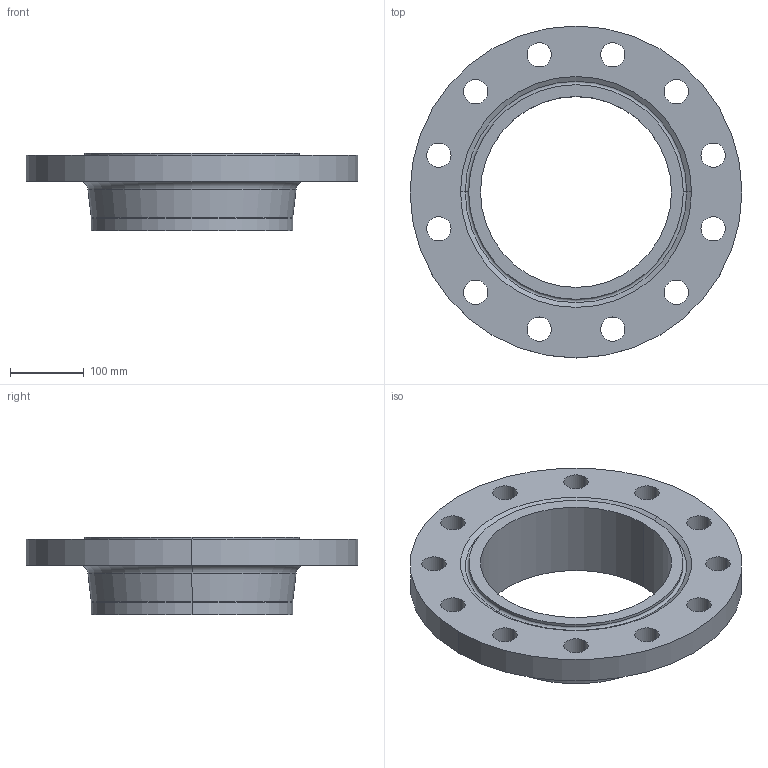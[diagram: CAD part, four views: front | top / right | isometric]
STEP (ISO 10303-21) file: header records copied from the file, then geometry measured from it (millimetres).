
FILE_DESCRIPTION (( 'STEP AP214' ), '1' );
FILE_NAME ('PN40 DN250 Type 11 - Type H Face.STEP', '2019-01-05T16:10:06', ( '' ), ( '' ), 'SwSTEP 2.0', 'SolidWorks 2019', '' );
FILE_SCHEMA (( 'AUTOMOTIVE_DESIGN' ));
Length unit declared in the file: millimetre
Products named in the file (1): PN40 DN250 Type 11 - Type H Face
Bounding box: 450 x 450 x 105 mm (x, y, z)
Volume: 3963920.8 mm3; surface area: 428637.7 mm2
Topology: 1 solids, 1 shells, 46 faces, 116 edges, 74 vertices
Faces by surface type: cylinder 32, torus 6, cone 4, plane 4
Entity records: 1506 total; most frequent: DIRECTION 290, CARTESIAN_POINT 237, ORIENTED_EDGE 232, AXIS2_PLACEMENT_3D 127, EDGE_CURVE 116, CIRCLE 80, VERTEX_POINT 74, EDGE_LOOP 74
